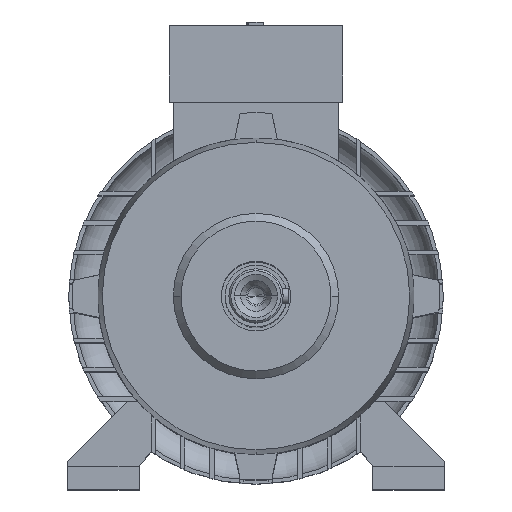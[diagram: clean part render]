
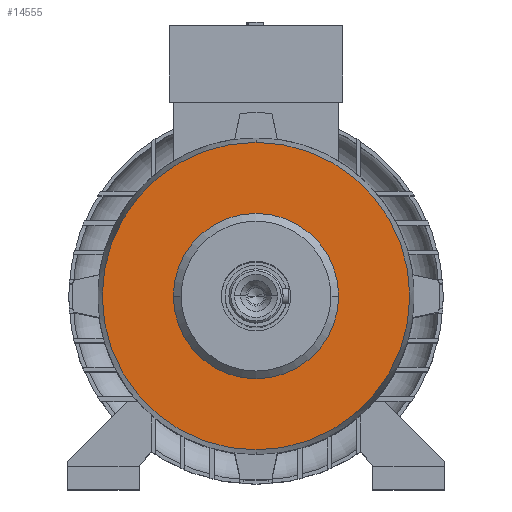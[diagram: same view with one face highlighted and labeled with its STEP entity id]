
A CAD part, top view. The second image highlights one B-rep face of the part: STEP entity #14555.
In plain terms, the highlighted planar face has unit normal (0, 0, 1).
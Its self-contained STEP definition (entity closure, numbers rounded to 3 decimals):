
#36 = DIRECTION ( 'NONE',  ( 0., -1., 0. ) ) ;
#182 = CARTESIAN_POINT ( 'NONE',  ( 0., 0., 127. ) ) ;
#306 = CARTESIAN_POINT ( 'NONE',  ( 0., 79.609, 127. ) ) ;
#336 = DIRECTION ( 'NONE',  ( 0., -1., 0. ) ) ;
#814 = EDGE_CURVE ( 'NONE', #13045, #10012, #10608, .T. ) ;
#948 = FACE_BOUND ( 'NONE', #14251, .T. ) ;
#1192 = EDGE_CURVE ( 'NONE', #10012, #13045, #5664, .T. ) ;
#1323 = ORIENTED_EDGE ( 'NONE', *, *, #6912, .T. ) ;
#2287 = VERTEX_POINT ( 'NONE', #13167 ) ;
#2684 = DIRECTION ( 'NONE',  ( 0., 0., 1. ) ) ;
#2913 = AXIS2_PLACEMENT_3D ( 'NONE', #7113, #8186, #36 ) ;
#3571 = ORIENTED_EDGE ( 'NONE', *, *, #1192, .F. ) ;
#3606 = ORIENTED_EDGE ( 'NONE', *, *, #814, .F. ) ;
#5597 = AXIS2_PLACEMENT_3D ( 'NONE', #14491, #2684, #8554 ) ;
#5664 = CIRCLE ( 'NONE', #2913, 42.8 ) ;
#5674 = AXIS2_PLACEMENT_3D ( 'NONE', #182, #11988, #336 ) ;
#5987 = DIRECTION ( 'NONE',  ( 0., 0., 1. ) ) ;
#6256 = DIRECTION ( 'NONE',  ( 0., 0., -1. ) ) ;
#6572 = AXIS2_PLACEMENT_3D ( 'NONE', #306, #6256, #14486 ) ;
#6912 = EDGE_CURVE ( 'NONE', #14723, #2287, #11136, .T. ) ;
#7113 = CARTESIAN_POINT ( 'NONE',  ( 0., 0., 127. ) ) ;
#7311 = CARTESIAN_POINT ( 'NONE',  ( 42.8, 0., 127. ) ) ;
#7951 = FACE_OUTER_BOUND ( 'NONE', #12149, .T. ) ;
#8186 = DIRECTION ( 'NONE',  ( 0., 0., 1. ) ) ;
#8554 = DIRECTION ( 'NONE',  ( 0., -1., 0. ) ) ;
#9824 = CIRCLE ( 'NONE', #11538, 79.609 ) ;
#9925 = CARTESIAN_POINT ( 'NONE',  ( 0., -79.609, 127. ) ) ;
#10012 = VERTEX_POINT ( 'NONE', #11781 ) ;
#10608 = CIRCLE ( 'NONE', #5597, 42.8 ) ;
#11136 = CIRCLE ( 'NONE', #5674, 79.609 ) ;
#11538 = AXIS2_PLACEMENT_3D ( 'NONE', #13050, #5987, #13107 ) ;
#11776 = ORIENTED_EDGE ( 'NONE', *, *, #12716, .T. ) ;
#11781 = CARTESIAN_POINT ( 'NONE',  ( -42.8, 0., 127. ) ) ;
#11988 = DIRECTION ( 'NONE',  ( 0., 0., 1. ) ) ;
#12013 = PLANE ( 'NONE',  #6572 ) ;
#12149 = EDGE_LOOP ( 'NONE', ( #11776, #1323 ) ) ;
#12716 = EDGE_CURVE ( 'NONE', #2287, #14723, #9824, .T. ) ;
#13045 = VERTEX_POINT ( 'NONE', #7311 ) ;
#13050 = CARTESIAN_POINT ( 'NONE',  ( 0., 0., 127. ) ) ;
#13107 = DIRECTION ( 'NONE',  ( 0., -1., 0. ) ) ;
#13167 = CARTESIAN_POINT ( 'NONE',  ( 0., 79.609, 127. ) ) ;
#14251 = EDGE_LOOP ( 'NONE', ( #3571, #3606 ) ) ;
#14486 = DIRECTION ( 'NONE',  ( 0., 1., 0. ) ) ;
#14491 = CARTESIAN_POINT ( 'NONE',  ( 0., 0., 127. ) ) ;
#14555 = ADVANCED_FACE ( 'NONE', ( #948, #7951 ), #12013, .F. ) ;
#14723 = VERTEX_POINT ( 'NONE', #9925 ) ;
